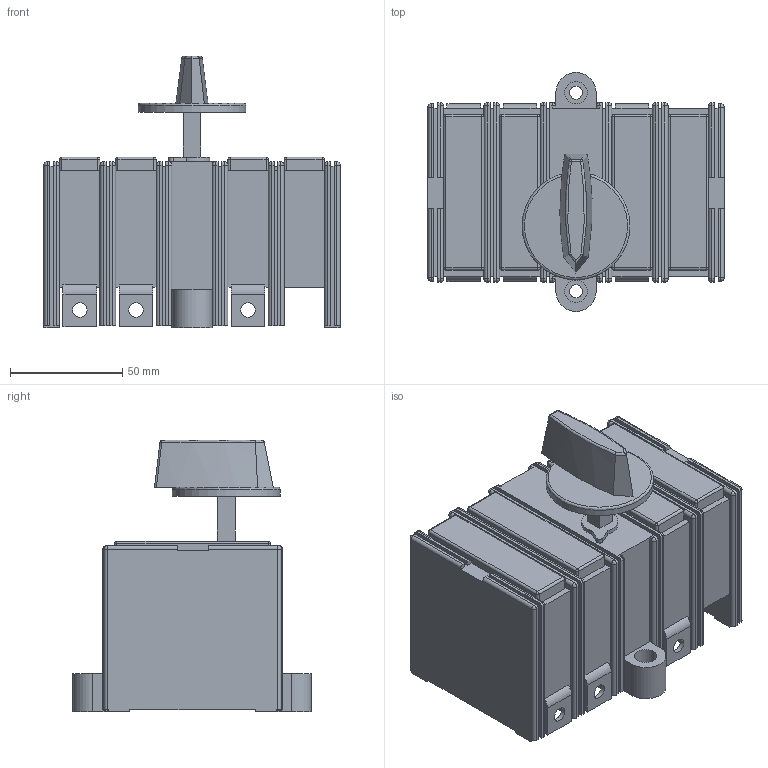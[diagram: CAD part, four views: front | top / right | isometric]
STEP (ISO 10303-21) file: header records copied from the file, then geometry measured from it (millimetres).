
FILE_DESCRIPTION(/* description */ (''),/* implementation_level */ '2;1');
FILE_NAME(/* name */ 'RA100 P3 C-R.stp',/* time_stamp */ '2021-08-17T14:42:32+02:00',/* author */ (''),/* organization */ (''),/* preprocessor_version */ 'ST-DEVELOPER v18.1',/* originating_system */ 'SIEMENS PLM Software NX 1965',/* authorisation */ '');
FILE_SCHEMA (('AUTOMOTIVE_DESIGN { 1 0 10303 214 3 1 1 1 }'));
Length unit declared in the file: millimetre
Products named in the file (1): RA100 P3 C-R_stp
Bounding box: 132 x 106.51 x 121 mm (x, y, z)
Volume: 676366.4 mm3; surface area: 82867.7 mm2
Topology: 1 solids, 1 shells, 394 faces, 1054 edges, 625 vertices
Faces by surface type: plane 217, cylinder 128, sphere 41, bspline 7, torus 1
Full cylindrical faces by diameter (mm): 5.8 x2, 6.5 x6, 10 x2, 48 x1
Entity records: 11902 total; most frequent: CARTESIAN_POINT 2252, DIRECTION 2012, ORIENTED_EDGE 1992, EDGE_CURVE 996, LINE 718, VECTOR 718, AXIS2_PLACEMENT_3D 647, VERTEX_POINT 621
